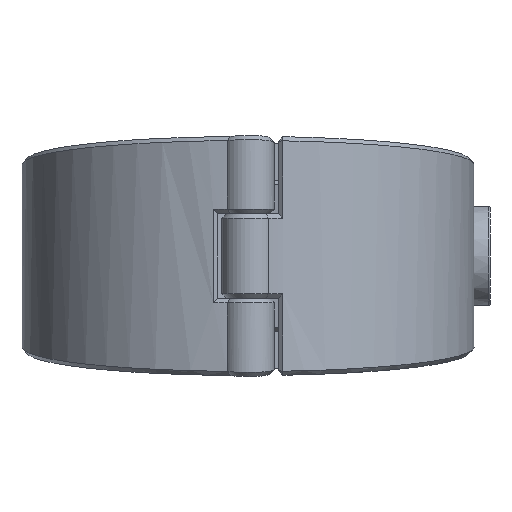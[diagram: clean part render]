
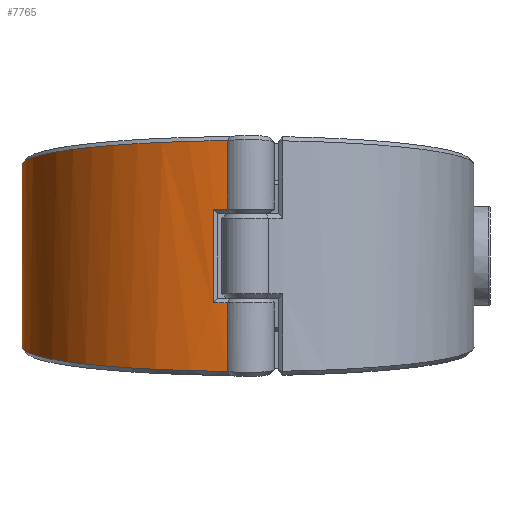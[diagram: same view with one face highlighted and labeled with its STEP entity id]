
A CAD part, front view. The second image highlights one B-rep face of the part: STEP entity #7765.
In plain terms, the highlighted cylindrical face has radius 99 mm (diameter 198 mm), a partial arc.
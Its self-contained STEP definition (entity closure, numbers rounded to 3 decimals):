
#263=CYLINDRICAL_SURFACE('',#8320,99.);
#584=FACE_OUTER_BOUND('',#1104,.T.);
#1104=EDGE_LOOP('',(#5280,#5281,#5282,#5283,#5284,#5285,#5286,#5287,#5288,
#5289,#5290,#5291));
#1644=B_SPLINE_CURVE_WITH_KNOTS('',3,(#11843,#11844,#11845,#11846),
 .UNSPECIFIED.,.F.,.F.,(4,4),(-0.001,0.),.UNSPECIFIED.);
#1645=B_SPLINE_CURVE_WITH_KNOTS('',3,(#11848,#11849,#11850,#11851),
 .UNSPECIFIED.,.F.,.F.,(4,4),(-3.05,-3.05),
 .UNSPECIFIED.);
#1646=B_SPLINE_CURVE_WITH_KNOTS('',3,(#11853,#11854,#11855,#11856,#11857,
#11858,#11859,#11860,#11861,#11862),.UNSPECIFIED.,.F.,.F.,(4,1,1,1,1,1,
1,4),(0.317,0.649,1.051,1.453,
1.855,2.256,2.658,3.05),
 .UNSPECIFIED.);
#1647=B_SPLINE_CURVE_WITH_KNOTS('',3,(#11866,#11867,#11868,#11869,#11870,
#11871,#11872,#11873,#11874,#11875),.UNSPECIFIED.,.F.,.F.,(4,1,1,1,1,1,
1,4),(-3.05,-2.658,-2.256,-1.855,
-1.453,-1.051,-0.649,-0.317),
 .UNSPECIFIED.);
#1648=B_SPLINE_CURVE_WITH_KNOTS('',3,(#11877,#11878,#11879,#11880),
 .UNSPECIFIED.,.F.,.F.,(4,4),(3.05,3.05),
 .UNSPECIFIED.);
#1649=B_SPLINE_CURVE_WITH_KNOTS('',3,(#11882,#11883,#11884,#11885),
 .UNSPECIFIED.,.F.,.F.,(4,4),(-0.362,-0.361),
 .UNSPECIFIED.);
#1921=LINE('',#11777,#2291);
#1927=LINE('',#11841,#2297);
#1928=LINE('',#11864,#2298);
#1929=LINE('',#11886,#2299);
#2291=VECTOR('',#9336,10.);
#2297=VECTOR('',#9382,10.);
#2298=VECTOR('',#9383,10.);
#2299=VECTOR('',#9384,10.);
#2666=CIRCLE('',#8310,99.);
#2669=CIRCLE('',#8315,99.);
#3229=VERTEX_POINT('',#11771);
#3230=VERTEX_POINT('',#11776);
#3236=VERTEX_POINT('',#11797);
#3239=VERTEX_POINT('',#11818);
#3243=VERTEX_POINT('',#11840);
#3244=VERTEX_POINT('',#11842);
#3245=VERTEX_POINT('',#11847);
#3246=VERTEX_POINT('',#11852);
#3247=VERTEX_POINT('',#11863);
#3248=VERTEX_POINT('',#11865);
#3249=VERTEX_POINT('',#11876);
#3250=VERTEX_POINT('',#11881);
#3984=EDGE_CURVE('',#3229,#3230,#1921,.T.);
#3997=EDGE_CURVE('',#3236,#3229,#2666,.T.);
#4002=EDGE_CURVE('',#3230,#3239,#2669,.T.);
#4008=EDGE_CURVE('',#3243,#3236,#1927,.T.);
#4009=EDGE_CURVE('',#3244,#3243,#1644,.T.);
#4010=EDGE_CURVE('',#3244,#3245,#1645,.T.);
#4011=EDGE_CURVE('',#3246,#3245,#1646,.T.);
#4012=EDGE_CURVE('',#3247,#3246,#1928,.T.);
#4013=EDGE_CURVE('',#3248,#3247,#1647,.T.);
#4014=EDGE_CURVE('',#3248,#3249,#1648,.T.);
#4015=EDGE_CURVE('',#3250,#3249,#1649,.T.);
#4016=EDGE_CURVE('',#3239,#3250,#1929,.T.);
#5280=ORIENTED_EDGE('',*,*,#4002,.F.);
#5281=ORIENTED_EDGE('',*,*,#3984,.F.);
#5282=ORIENTED_EDGE('',*,*,#3997,.F.);
#5283=ORIENTED_EDGE('',*,*,#4008,.F.);
#5284=ORIENTED_EDGE('',*,*,#4009,.F.);
#5285=ORIENTED_EDGE('',*,*,#4010,.T.);
#5286=ORIENTED_EDGE('',*,*,#4011,.F.);
#5287=ORIENTED_EDGE('',*,*,#4012,.F.);
#5288=ORIENTED_EDGE('',*,*,#4013,.F.);
#5289=ORIENTED_EDGE('',*,*,#4014,.T.);
#5290=ORIENTED_EDGE('',*,*,#4015,.F.);
#5291=ORIENTED_EDGE('',*,*,#4016,.F.);
#7765=ADVANCED_FACE('',(#584),#263,.T.);
#8310=AXIS2_PLACEMENT_3D('',#11813,#9358,#9359);
#8315=AXIS2_PLACEMENT_3D('',#11827,#9368,#9369);
#8320=AXIS2_PLACEMENT_3D('',#11839,#9380,#9381);
#9336=DIRECTION('',(0.,0.,-1.));
#9358=DIRECTION('center_axis',(0.,0.,-1.));
#9359=DIRECTION('ref_axis',(0.312,-0.95,0.));
#9368=DIRECTION('center_axis',(0.,0.,1.));
#9369=DIRECTION('ref_axis',(0.312,-0.95,0.));
#9380=DIRECTION('center_axis',(0.,0.,1.));
#9381=DIRECTION('ref_axis',(-0.312,0.95,0.));
#9382=DIRECTION('',(0.,0.,-1.));
#9383=DIRECTION('',(0.,0.,1.));
#9384=DIRECTION('',(0.,0.,-1.));
#11771=CARTESIAN_POINT('',(-15.279,-97.814,20.55));
#11776=CARTESIAN_POINT('',(-15.279,-97.814,-20.55));
#11777=CARTESIAN_POINT('',(-15.279,-97.814,0.));
#11797=CARTESIAN_POINT('',(-9.014,-98.589,20.55));
#11813=CARTESIAN_POINT('Origin',(0.,0.,20.55));
#11818=CARTESIAN_POINT('',(-9.014,-98.589,-20.55));
#11827=CARTESIAN_POINT('Origin',(0.,0.,-20.55));
#11839=CARTESIAN_POINT('Origin',(0.,0.,0.));
#11840=CARTESIAN_POINT('',(-9.014,-98.589,50.522));
#11841=CARTESIAN_POINT('',(-9.014,-98.589,0.));
#11842=CARTESIAN_POINT('',(-9.005,-98.59,50.53));
#11843=CARTESIAN_POINT('Ctrl Pts',(-9.005,-98.59,
50.53));
#11844=CARTESIAN_POINT('Ctrl Pts',(-9.008,-98.589,
50.527));
#11845=CARTESIAN_POINT('Ctrl Pts',(-9.011,-98.589,
50.525));
#11846=CARTESIAN_POINT('Ctrl Pts',(-9.014,-98.589,
50.522));
#11847=CARTESIAN_POINT('',(-9.014,-98.589,50.53));
#11848=CARTESIAN_POINT('Ctrl Pts',(-9.004,-98.59,
50.53));
#11849=CARTESIAN_POINT('Ctrl Pts',(-9.008,-98.589,
50.53));
#11850=CARTESIAN_POINT('Ctrl Pts',(-9.011,-98.589,
50.53));
#11851=CARTESIAN_POINT('Ctrl Pts',(-9.014,-98.589,
50.53));
#11852=CARTESIAN_POINT('',(-30.913,94.05,29.799));
#11853=CARTESIAN_POINT('Ctrl Pts',(-30.912,94.048,29.799));
#11854=CARTESIAN_POINT('Ctrl Pts',(-41.358,90.609,30.168));
#11855=CARTESIAN_POINT('Ctrl Pts',(-63.153,79.165,31.397));
#11856=CARTESIAN_POINT('Ctrl Pts',(-88.387,50.334,34.495));
#11857=CARTESIAN_POINT('Ctrl Pts',(-101.019,11.738,38.645));
#11858=CARTESIAN_POINT('Ctrl Pts',(-97.574,-28.688,
42.996));
#11859=CARTESIAN_POINT('Ctrl Pts',(-78.607,-64.519,
46.856));
#11860=CARTESIAN_POINT('Ctrl Pts',(-47.431,-89.877,
49.59));
#11861=CARTESIAN_POINT('Ctrl Pts',(-21.873,-97.411,
50.403));
#11862=CARTESIAN_POINT('Ctrl Pts',(-9.014,-98.589,
50.53));
#11863=CARTESIAN_POINT('',(-30.913,94.05,-29.799));
#11864=CARTESIAN_POINT('',(-30.913,94.05,0.));
#11865=CARTESIAN_POINT('',(-9.014,-98.589,-50.53));
#11866=CARTESIAN_POINT('Ctrl Pts',(-9.014,-98.589,-50.53));
#11867=CARTESIAN_POINT('Ctrl Pts',(-21.873,-97.411,
-50.403));
#11868=CARTESIAN_POINT('Ctrl Pts',(-47.43,-89.878,
-49.59));
#11869=CARTESIAN_POINT('Ctrl Pts',(-78.613,-64.522,
-46.857));
#11870=CARTESIAN_POINT('Ctrl Pts',(-97.565,-28.686,
-42.996));
#11871=CARTESIAN_POINT('Ctrl Pts',(-101.029,11.739,-38.645));
#11872=CARTESIAN_POINT('Ctrl Pts',(-88.382,50.333,-34.495));
#11873=CARTESIAN_POINT('Ctrl Pts',(-63.154,79.164,-31.397));
#11874=CARTESIAN_POINT('Ctrl Pts',(-41.358,90.608,-30.168));
#11875=CARTESIAN_POINT('Ctrl Pts',(-30.912,94.048,-29.799));
#11876=CARTESIAN_POINT('',(-9.005,-98.59,-50.53));
#11877=CARTESIAN_POINT('Ctrl Pts',(-9.014,-98.589,
-50.53));
#11878=CARTESIAN_POINT('Ctrl Pts',(-9.011,-98.589,
-50.53));
#11879=CARTESIAN_POINT('Ctrl Pts',(-9.008,-98.589,
-50.53));
#11880=CARTESIAN_POINT('Ctrl Pts',(-9.004,-98.59,
-50.53));
#11881=CARTESIAN_POINT('',(-9.014,-98.589,-50.522));
#11882=CARTESIAN_POINT('Ctrl Pts',(-9.014,-98.588,
-50.522));
#11883=CARTESIAN_POINT('Ctrl Pts',(-9.011,-98.589,
-50.525));
#11884=CARTESIAN_POINT('Ctrl Pts',(-9.007,-98.589,
-50.527));
#11885=CARTESIAN_POINT('Ctrl Pts',(-9.004,-98.589,
-50.53));
#11886=CARTESIAN_POINT('',(-9.014,-98.589,0.));
